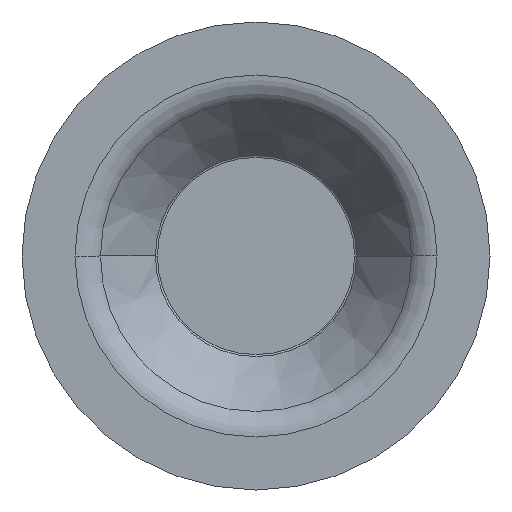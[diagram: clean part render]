
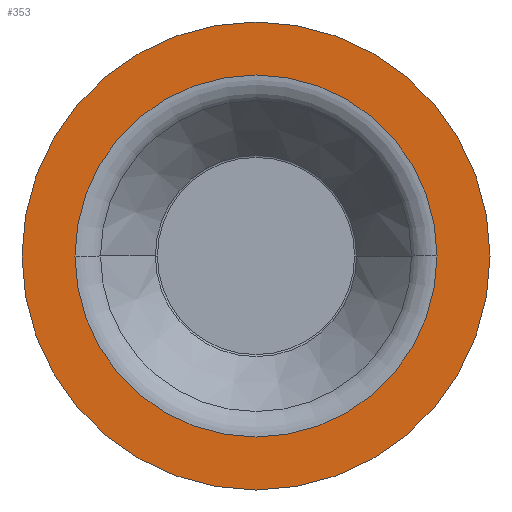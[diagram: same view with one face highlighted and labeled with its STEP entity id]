
A CAD part, front view. The second image highlights one B-rep face of the part: STEP entity #353.
In plain terms, the highlighted planar face has unit normal (0, -1, 0).
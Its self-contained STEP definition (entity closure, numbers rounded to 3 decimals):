
#21 = EDGE_LOOP ( 'NONE', ( #639, #786 ) ) ;
#31 = FACE_BOUND ( 'NONE', #21, .T. ) ;
#94 = CARTESIAN_POINT ( 'NONE',  ( 0., -22., 0. ) ) ;
#174 = CARTESIAN_POINT ( 'NONE',  ( 47.5, -22., 0. ) ) ;
#182 = CIRCLE ( 'NONE', #269, 47.5 ) ;
#184 = EDGE_LOOP ( 'NONE', ( #1407, #202 ) ) ;
#199 = DIRECTION ( 'NONE',  ( 0., -1., 0. ) ) ;
#202 = ORIENTED_EDGE ( 'NONE', *, *, #1151, .T. ) ;
#256 = DIRECTION ( 'NONE',  ( 0., -1., 0. ) ) ;
#263 = DIRECTION ( 'NONE',  ( 1., 0., 0. ) ) ;
#265 = AXIS2_PLACEMENT_3D ( 'NONE', #94, #1229, #1621 ) ;
#269 = AXIS2_PLACEMENT_3D ( 'NONE', #1458, #808, #420 ) ;
#305 = DIRECTION ( 'NONE',  ( 1., 0., 0. ) ) ;
#353 = ADVANCED_FACE ( 'NONE', ( #31, #1339 ), #1311, .T. ) ;
#357 = CARTESIAN_POINT ( 'NONE',  ( -47.5, -22., 0. ) ) ;
#364 = CARTESIAN_POINT ( 'NONE',  ( -36.744, -22., 0. ) ) ;
#420 = DIRECTION ( 'NONE',  ( 1., 0., 0. ) ) ;
#424 = VERTEX_POINT ( 'NONE', #1562 ) ;
#531 = AXIS2_PLACEMENT_3D ( 'NONE', #887, #256, #263 ) ;
#591 = DIRECTION ( 'NONE',  ( -1., 0., 0. ) ) ;
#613 = VERTEX_POINT ( 'NONE', #364 ) ;
#639 = ORIENTED_EDGE ( 'NONE', *, *, #923, .F. ) ;
#675 = VERTEX_POINT ( 'NONE', #357 ) ;
#694 = AXIS2_PLACEMENT_3D ( 'NONE', #174, #199, #305 ) ;
#786 = ORIENTED_EDGE ( 'NONE', *, *, #855, .F. ) ;
#808 = DIRECTION ( 'NONE',  ( 0., -1., 0. ) ) ;
#821 = DIRECTION ( 'NONE',  ( 0., -1., 0. ) ) ;
#855 = EDGE_CURVE ( 'NONE', #424, #613, #1268, .T. ) ;
#887 = CARTESIAN_POINT ( 'NONE',  ( 0., -22., 0. ) ) ;
#923 = EDGE_CURVE ( 'NONE', #613, #424, #1524, .T. ) ;
#943 = CARTESIAN_POINT ( 'NONE',  ( 0., -22., 0. ) ) ;
#993 = CIRCLE ( 'NONE', #531, 47.5 ) ;
#1151 = EDGE_CURVE ( 'NONE', #675, #1644, #993, .T. ) ;
#1229 = DIRECTION ( 'NONE',  ( 0., -1., 0. ) ) ;
#1240 = AXIS2_PLACEMENT_3D ( 'NONE', #943, #821, #591 ) ;
#1262 = CARTESIAN_POINT ( 'NONE',  ( 47.5, -22., 0. ) ) ;
#1268 = CIRCLE ( 'NONE', #1240, 36.744 ) ;
#1285 = EDGE_CURVE ( 'NONE', #1644, #675, #182, .T. ) ;
#1311 = PLANE ( 'NONE',  #694 ) ;
#1339 = FACE_OUTER_BOUND ( 'NONE', #184, .T. ) ;
#1407 = ORIENTED_EDGE ( 'NONE', *, *, #1285, .T. ) ;
#1458 = CARTESIAN_POINT ( 'NONE',  ( 0., -22., 0. ) ) ;
#1524 = CIRCLE ( 'NONE', #265, 36.744 ) ;
#1562 = CARTESIAN_POINT ( 'NONE',  ( 36.744, -22., 0. ) ) ;
#1621 = DIRECTION ( 'NONE',  ( -1., 0., 0. ) ) ;
#1644 = VERTEX_POINT ( 'NONE', #1262 ) ;
